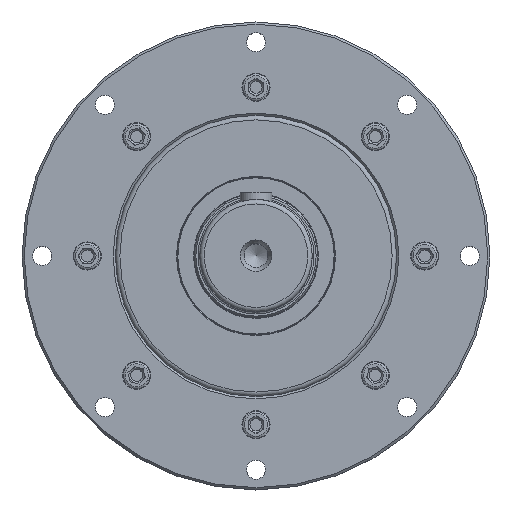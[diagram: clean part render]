
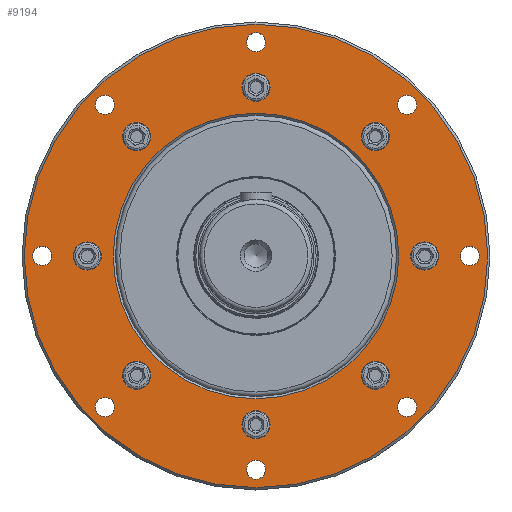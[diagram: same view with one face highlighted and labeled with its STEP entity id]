
A CAD part, top view. The second image highlights one B-rep face of the part: STEP entity #9194.
In plain terms, the highlighted planar face has unit normal (0, 0, 1).
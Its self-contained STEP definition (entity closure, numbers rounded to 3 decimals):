
#8332=CARTESIAN_POINT('',(-206.,0.0,-14.0));
#8333=VERTEX_POINT('',#8332);
#8334=CARTESIAN_POINT('',(0.0,0.0,-14.0));
#8335=DIRECTION('',(0.0,0.0,1.0));
#8336=DIRECTION('',(1.0,0.0,0.0));
#8337=AXIS2_PLACEMENT_3D('',#8334,#8335,#8336);
#8338=CIRCLE('',#8337,206.);
#8339=EDGE_CURVE('',#8333,#8333,#8338,.T.);
#8399=CARTESIAN_POINT('',(127.,0.0,-14.0));
#8400=VERTEX_POINT('',#8399);
#8401=CARTESIAN_POINT('',(0.0,0.0,-14.0));
#8402=DIRECTION('',(0.0,0.0,-1.0));
#8403=DIRECTION('',(1.0,0.0,0.0));
#8404=AXIS2_PLACEMENT_3D('',#8401,#8402,#8403);
#8405=CIRCLE('',#8404,127.);
#8406=EDGE_CURVE('',#8400,#8400,#8405,.T.);
#8455=CARTESIAN_POINT('',(12.5,150.,-14.0));
#8456=VERTEX_POINT('',#8455);
#8457=CARTESIAN_POINT('',(0.,150.,-14.0));
#8458=DIRECTION('',(0.0,0.0,1.0));
#8459=DIRECTION('',(1.0,0.0,0.0));
#8460=AXIS2_PLACEMENT_3D('',#8457,#8458,#8459);
#8461=CIRCLE('',#8460,12.5);
#8462=EDGE_CURVE('',#8456,#8456,#8461,.T.);
#8511=CARTESIAN_POINT('',(12.5,-150.,-14.0));
#8512=VERTEX_POINT('',#8511);
#8513=CARTESIAN_POINT('',(0.,-150.,-14.0));
#8514=DIRECTION('',(0.0,0.0,1.0));
#8515=DIRECTION('',(1.0,0.0,0.0));
#8516=AXIS2_PLACEMENT_3D('',#8513,#8514,#8515);
#8517=CIRCLE('',#8516,12.5);
#8518=EDGE_CURVE('',#8512,#8512,#8517,.T.);
#8567=CARTESIAN_POINT('',(118.566,106.066,-14.0));
#8568=VERTEX_POINT('',#8567);
#8569=CARTESIAN_POINT('',(106.066,106.066,-14.0));
#8570=DIRECTION('',(0.0,0.0,1.0));
#8571=DIRECTION('',(1.0,0.0,0.0));
#8572=AXIS2_PLACEMENT_3D('',#8569,#8570,#8571);
#8573=CIRCLE('',#8572,12.5);
#8574=EDGE_CURVE('',#8568,#8568,#8573,.T.);
#8623=CARTESIAN_POINT('',(-93.566,-106.066,-14.0));
#8624=VERTEX_POINT('',#8623);
#8625=CARTESIAN_POINT('',(-106.066,-106.066,-14.0));
#8626=DIRECTION('',(0.0,0.0,1.0));
#8627=DIRECTION('',(1.0,0.0,0.0));
#8628=AXIS2_PLACEMENT_3D('',#8625,#8626,#8627);
#8629=CIRCLE('',#8628,12.5);
#8630=EDGE_CURVE('',#8624,#8624,#8629,.T.);
#8679=CARTESIAN_POINT('',(162.5,0.,-14.0));
#8680=VERTEX_POINT('',#8679);
#8681=CARTESIAN_POINT('',(150.,0.,-14.0));
#8682=DIRECTION('',(0.0,0.0,1.0));
#8683=DIRECTION('',(1.0,0.0,0.0));
#8684=AXIS2_PLACEMENT_3D('',#8681,#8682,#8683);
#8685=CIRCLE('',#8684,12.5);
#8686=EDGE_CURVE('',#8680,#8680,#8685,.T.);
#8735=CARTESIAN_POINT('',(-137.5,0.,-14.0));
#8736=VERTEX_POINT('',#8735);
#8737=CARTESIAN_POINT('',(-150.,0.,-14.0));
#8738=DIRECTION('',(0.0,0.0,1.0));
#8739=DIRECTION('',(1.0,0.0,0.0));
#8740=AXIS2_PLACEMENT_3D('',#8737,#8738,#8739);
#8741=CIRCLE('',#8740,12.5);
#8742=EDGE_CURVE('',#8736,#8736,#8741,.T.);
#8791=CARTESIAN_POINT('',(118.566,-106.066,-14.0));
#8792=VERTEX_POINT('',#8791);
#8793=CARTESIAN_POINT('',(106.066,-106.066,-14.0));
#8794=DIRECTION('',(0.0,0.0,1.0));
#8795=DIRECTION('',(1.0,0.0,0.0));
#8796=AXIS2_PLACEMENT_3D('',#8793,#8794,#8795);
#8797=CIRCLE('',#8796,12.5);
#8798=EDGE_CURVE('',#8792,#8792,#8797,.T.);
#8847=CARTESIAN_POINT('',(-93.566,106.066,-14.0));
#8848=VERTEX_POINT('',#8847);
#8849=CARTESIAN_POINT('',(-106.066,106.066,-14.0));
#8850=DIRECTION('',(0.0,0.0,1.0));
#8851=DIRECTION('',(1.0,0.0,0.0));
#8852=AXIS2_PLACEMENT_3D('',#8849,#8850,#8851);
#8853=CIRCLE('',#8852,12.5);
#8854=EDGE_CURVE('',#8848,#8848,#8853,.T.);
#8903=CARTESIAN_POINT('',(8.5,190.,-14.0));
#8904=VERTEX_POINT('',#8903);
#8905=CARTESIAN_POINT('',(0.0,190.,-14.0));
#8906=DIRECTION('',(0.0,0.0,1.0));
#8907=DIRECTION('',(1.0,0.0,0.0));
#8908=AXIS2_PLACEMENT_3D('',#8905,#8906,#8907);
#8909=CIRCLE('',#8908,8.5);
#8910=EDGE_CURVE('',#8904,#8904,#8909,.T.);
#8931=CARTESIAN_POINT('',(8.5,-190.,-14.0));
#8932=VERTEX_POINT('',#8931);
#8933=CARTESIAN_POINT('',(0.0,-190.,-14.0));
#8934=DIRECTION('',(0.0,0.0,1.0));
#8935=DIRECTION('',(1.0,0.0,0.0));
#8936=AXIS2_PLACEMENT_3D('',#8933,#8934,#8935);
#8937=CIRCLE('',#8936,8.5);
#8938=EDGE_CURVE('',#8932,#8932,#8937,.T.);
#8959=CARTESIAN_POINT('',(142.85,134.35,-14.0));
#8960=VERTEX_POINT('',#8959);
#8961=CARTESIAN_POINT('',(134.35,134.35,-14.0));
#8962=DIRECTION('',(0.0,0.0,1.0));
#8963=DIRECTION('',(1.0,0.0,0.0));
#8964=AXIS2_PLACEMENT_3D('',#8961,#8962,#8963);
#8965=CIRCLE('',#8964,8.5);
#8966=EDGE_CURVE('',#8960,#8960,#8965,.T.);
#8987=CARTESIAN_POINT('',(-125.85,-134.35,-14.0));
#8988=VERTEX_POINT('',#8987);
#8989=CARTESIAN_POINT('',(-134.35,-134.35,-14.0));
#8990=DIRECTION('',(0.0,0.0,1.0));
#8991=DIRECTION('',(1.0,0.0,0.0));
#8992=AXIS2_PLACEMENT_3D('',#8989,#8990,#8991);
#8993=CIRCLE('',#8992,8.5);
#8994=EDGE_CURVE('',#8988,#8988,#8993,.T.);
#9015=CARTESIAN_POINT('',(198.5,0.,-14.0));
#9016=VERTEX_POINT('',#9015);
#9017=CARTESIAN_POINT('',(190.,0.,-14.0));
#9018=DIRECTION('',(0.0,0.0,1.0));
#9019=DIRECTION('',(1.0,0.0,0.0));
#9020=AXIS2_PLACEMENT_3D('',#9017,#9018,#9019);
#9021=CIRCLE('',#9020,8.5);
#9022=EDGE_CURVE('',#9016,#9016,#9021,.T.);
#9043=CARTESIAN_POINT('',(-181.5,0.,-14.0));
#9044=VERTEX_POINT('',#9043);
#9045=CARTESIAN_POINT('',(-190.,0.,-14.0));
#9046=DIRECTION('',(0.0,0.0,1.0));
#9047=DIRECTION('',(1.0,0.0,0.0));
#9048=AXIS2_PLACEMENT_3D('',#9045,#9046,#9047);
#9049=CIRCLE('',#9048,8.5);
#9050=EDGE_CURVE('',#9044,#9044,#9049,.T.);
#9071=CARTESIAN_POINT('',(142.85,-134.35,-14.0));
#9072=VERTEX_POINT('',#9071);
#9073=CARTESIAN_POINT('',(134.35,-134.35,-14.0));
#9074=DIRECTION('',(0.0,0.0,1.0));
#9075=DIRECTION('',(1.0,0.0,0.0));
#9076=AXIS2_PLACEMENT_3D('',#9073,#9074,#9075);
#9077=CIRCLE('',#9076,8.5);
#9078=EDGE_CURVE('',#9072,#9072,#9077,.T.);
#9099=CARTESIAN_POINT('',(-125.85,134.35,-14.0));
#9100=VERTEX_POINT('',#9099);
#9101=CARTESIAN_POINT('',(-134.35,134.35,-14.0));
#9102=DIRECTION('',(0.0,0.0,1.0));
#9103=DIRECTION('',(1.0,0.0,0.0));
#9104=AXIS2_PLACEMENT_3D('',#9101,#9102,#9103);
#9105=CIRCLE('',#9104,8.5);
#9106=EDGE_CURVE('',#9100,#9100,#9105,.T.);
#9135=CARTESIAN_POINT('',(0.0,0.0,-14.0));
#9136=DIRECTION('',(0.0,0.0,1.0));
#9137=DIRECTION('',(1.0,0.0,0.0));
#9138=AXIS2_PLACEMENT_3D('',#9135,#9136,#9137);
#9139=PLANE('',#9138);
#9140=ORIENTED_EDGE('',*,*,#8339,.T.);
#9141=EDGE_LOOP('',(#9140));
#9142=FACE_OUTER_BOUND('',#9141,.T.);
#9143=ORIENTED_EDGE('',*,*,#8406,.T.);
#9144=EDGE_LOOP('',(#9143));
#9145=FACE_BOUND('',#9144,.T.);
#9146=ORIENTED_EDGE('',*,*,#8462,.F.);
#9147=EDGE_LOOP('',(#9146));
#9148=FACE_BOUND('',#9147,.T.);
#9149=ORIENTED_EDGE('',*,*,#8518,.F.);
#9150=EDGE_LOOP('',(#9149));
#9151=FACE_BOUND('',#9150,.T.);
#9152=ORIENTED_EDGE('',*,*,#8574,.F.);
#9153=EDGE_LOOP('',(#9152));
#9154=FACE_BOUND('',#9153,.T.);
#9155=ORIENTED_EDGE('',*,*,#8630,.F.);
#9156=EDGE_LOOP('',(#9155));
#9157=FACE_BOUND('',#9156,.T.);
#9158=ORIENTED_EDGE('',*,*,#8686,.F.);
#9159=EDGE_LOOP('',(#9158));
#9160=FACE_BOUND('',#9159,.T.);
#9161=ORIENTED_EDGE('',*,*,#8742,.F.);
#9162=EDGE_LOOP('',(#9161));
#9163=FACE_BOUND('',#9162,.T.);
#9164=ORIENTED_EDGE('',*,*,#8798,.F.);
#9165=EDGE_LOOP('',(#9164));
#9166=FACE_BOUND('',#9165,.T.);
#9167=ORIENTED_EDGE('',*,*,#8854,.F.);
#9168=EDGE_LOOP('',(#9167));
#9169=FACE_BOUND('',#9168,.T.);
#9170=ORIENTED_EDGE('',*,*,#8910,.F.);
#9171=EDGE_LOOP('',(#9170));
#9172=FACE_BOUND('',#9171,.T.);
#9173=ORIENTED_EDGE('',*,*,#8938,.F.);
#9174=EDGE_LOOP('',(#9173));
#9175=FACE_BOUND('',#9174,.T.);
#9176=ORIENTED_EDGE('',*,*,#8966,.F.);
#9177=EDGE_LOOP('',(#9176));
#9178=FACE_BOUND('',#9177,.T.);
#9179=ORIENTED_EDGE('',*,*,#8994,.F.);
#9180=EDGE_LOOP('',(#9179));
#9181=FACE_BOUND('',#9180,.T.);
#9182=ORIENTED_EDGE('',*,*,#9022,.F.);
#9183=EDGE_LOOP('',(#9182));
#9184=FACE_BOUND('',#9183,.T.);
#9185=ORIENTED_EDGE('',*,*,#9050,.F.);
#9186=EDGE_LOOP('',(#9185));
#9187=FACE_BOUND('',#9186,.T.);
#9188=ORIENTED_EDGE('',*,*,#9078,.F.);
#9189=EDGE_LOOP('',(#9188));
#9190=FACE_BOUND('',#9189,.T.);
#9191=ORIENTED_EDGE('',*,*,#9106,.F.);
#9192=EDGE_LOOP('',(#9191));
#9193=FACE_BOUND('',#9192,.T.);
#9194=ADVANCED_FACE('',(#9142,#9145,#9148,#9151,#9154,#9157,#9160,#9163,#9166,#9169,#9172,#9175,#9178,#9181,#9184,#9187,#9190,#9193),#9139,.T.);
